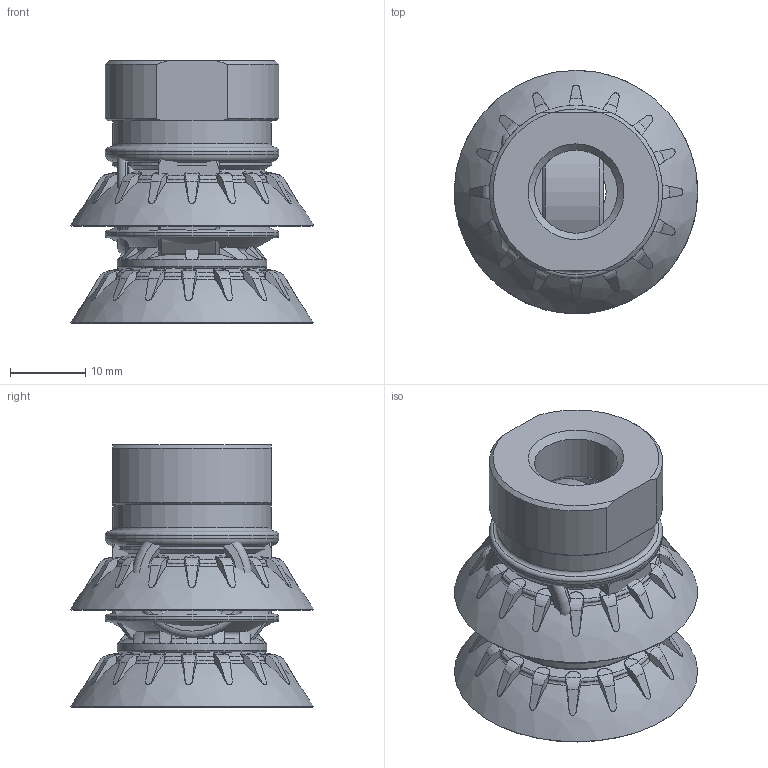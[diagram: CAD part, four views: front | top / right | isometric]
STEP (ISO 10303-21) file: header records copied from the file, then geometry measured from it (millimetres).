
FILE_DESCRIPTION( ( 'Unknown' ), '1' );
FILE_NAME( 'C:/Documents and Settings/owner/官帕 拳搁/荤夯 - B1.5/B2.5-20-X30-S-A-14F.stp', 'Unknown', ( 'Unknown' ), ( 'Unknown' ), 'XStep 1.0', 'Unknown', ' ' );
FILE_SCHEMA( ( 'automotive_design' ) );
Length unit declared in the file: millimetre
Products named in the file (5): Assem1; B2.5-20; B2.5-20-X30; B1.5-20-14F; B2.5-20-stopperA_20131004
Bounding box: 32.28 x 32.28 x 34.85 mm (x, y, z)
Volume: 12002.7 mm3; surface area: 18720.6 mm2
Topology: 8 solids, 8 shells, 1362 faces, 3472 edges, 2148 vertices
Faces by surface type: torus 352, cylinder 348, plane 348, cone 182, bspline 132
Full cylindrical faces by diameter (mm): 8 x2, 9 x2, 9.8 x2, 11 x4, 11.9 x4, 13 x4, 13.4 x2, 13.5 x2, 14.475 x2, 15 x4, 15.673 x2, 16 x2, 17.5 x2, 19 x2, 19.8 x2, 21 x2, 21.18 x2, 23 x6
Entity records: 28814 total; most frequent: CARTESIAN_POINT 12490, ORIENTED_EDGE 3258, DIRECTION 2538, EDGE_CURVE 1629, AXIS2_PLACEMENT_3D 1139, VERTEX_POINT 1069, B_SPLINE_CURVE_WITH_KNOTS 850, EDGE_LOOP 802
